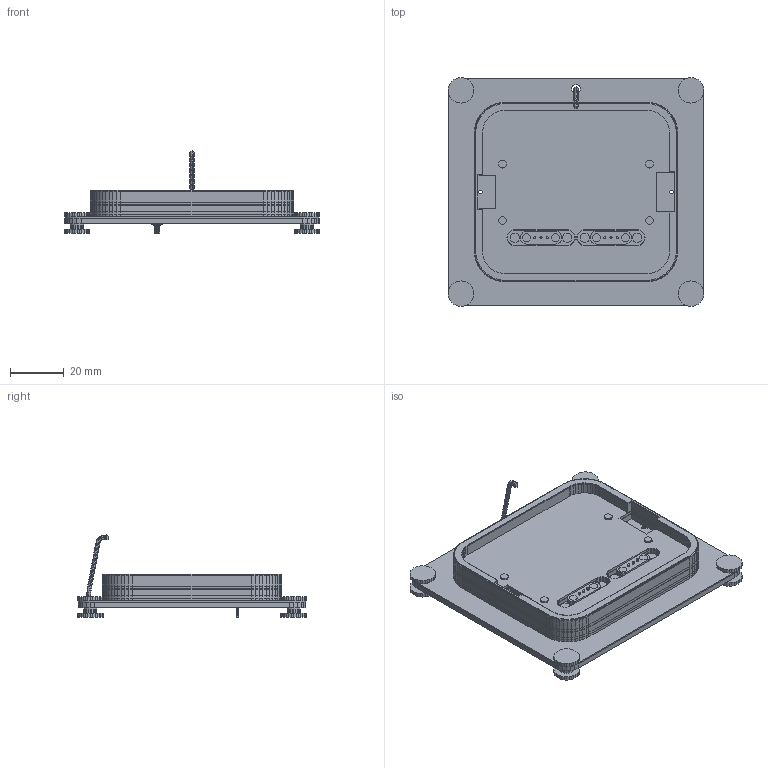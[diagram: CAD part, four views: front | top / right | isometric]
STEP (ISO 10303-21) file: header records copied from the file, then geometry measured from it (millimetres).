
FILE_DESCRIPTION(('AVO Performance Horse - montaje de la cincha (B-rep poliedrico)'),'2;1');
FILE_NAME('AVO_CINCHA_R6_9_SOPORTE','2026-11-15T12:00:00',('AVO Performance Horse'),('AVO Performance Horse'),'avo_cad.py','avo_cad.py (numpy)','');
FILE_SCHEMA(('AUTOMOTIVE_DESIGN { 1 0 10303 214 1 1 1 1 }'));
Length unit declared in the file: millimetre
Products named in the file (3): Soporte_impreso; Soporte_compra; AVO_CINCHA_R6_9_SOPORTE
Assembly tree (2 placements, depth 2):
  AVO_CINCHA_R6_9_SOPORTE
    Soporte_impreso
    Soporte_compra
Bounding box: 95 x 85.15 x 30.54 mm (x, y, z)
Volume: 50131.8 mm3; surface area: 25949.7 mm2
Topology: 32 solids, 32 shells, 4386 faces, 10180 edges, 5888 vertices
Faces by surface type: plane 4386
Entity records: 88169 total; most frequent: ORIENTED_EDGE 20504, VECTOR 10252, LINE 10252, EDGE_CURVE 10252, VERTEX_POINT 5960, CARTESIAN_POINT 5892, EDGE_LOOP 4470, AXIS2_PLACEMENT_3D 4390
